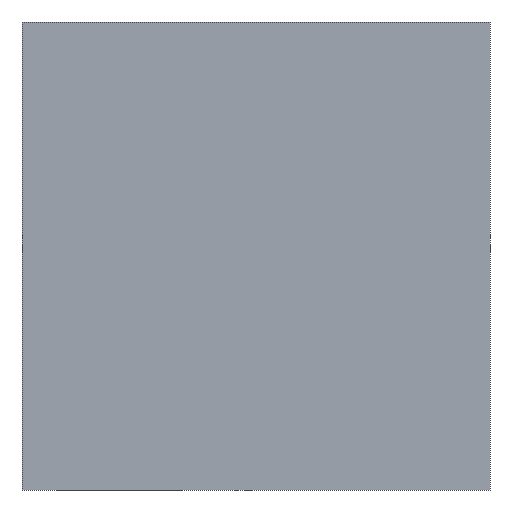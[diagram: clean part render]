
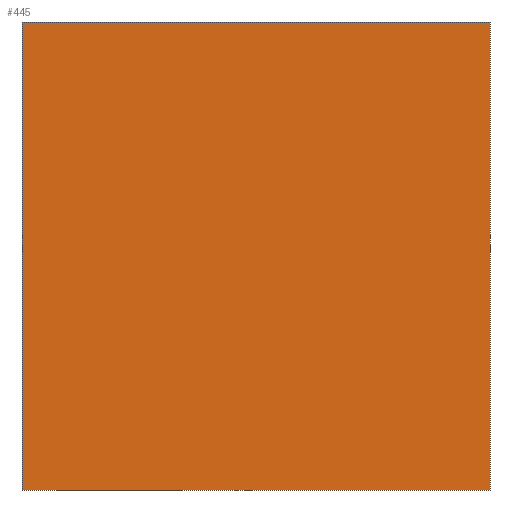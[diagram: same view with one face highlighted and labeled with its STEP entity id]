
A CAD part, front view. The second image highlights one B-rep face of the part: STEP entity #445.
In plain terms, the highlighted planar face has unit normal (0, -1, 0).
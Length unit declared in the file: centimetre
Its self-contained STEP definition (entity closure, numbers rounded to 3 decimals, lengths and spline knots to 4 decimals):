
#45 = VERTEX_POINT ( 'NONE', #540 ) ;
#80 = AXIS2_PLACEMENT_3D ( 'NONE', #320, #141, #236 ) ;
#86 = EDGE_LOOP ( 'NONE', ( #508, #570, #194, #500 ) ) ;
#99 = VECTOR ( 'NONE', #569, 100. ) ;
#134 = FACE_OUTER_BOUND ( 'NONE', #86, .T. ) ;
#138 = EDGE_CURVE ( 'NONE', #156, #155, #538, .T. ) ;
#141 = DIRECTION ( 'NONE',  ( 0., 1., 0. ) ) ;
#149 = DIRECTION ( 'NONE',  ( 1., 0., 0. ) ) ;
#155 = VERTEX_POINT ( 'NONE', #278 ) ;
#156 = VERTEX_POINT ( 'NONE', #268 ) ;
#164 = CARTESIAN_POINT ( 'NONE',  ( 1000., 0., 1000. ) ) ;
#194 = ORIENTED_EDGE ( 'NONE', *, *, #369, .F. ) ;
#195 = LINE ( 'NONE', #457, #537 ) ;
#236 = DIRECTION ( 'NONE',  ( 0., 0., 1. ) ) ;
#250 = VECTOR ( 'NONE', #357, 100. ) ;
#268 = CARTESIAN_POINT ( 'NONE',  ( 0., 0., 1000. ) ) ;
#272 = PLANE ( 'NONE',  #80 ) ;
#278 = CARTESIAN_POINT ( 'NONE',  ( 0., 0., 0. ) ) ;
#320 = CARTESIAN_POINT ( 'NONE',  ( 0., 0., 1000. ) ) ;
#349 = VECTOR ( 'NONE', #401, 100. ) ;
#352 = LINE ( 'NONE', #436, #99 ) ;
#357 = DIRECTION ( 'NONE',  ( 0., 0., -1. ) ) ;
#368 = VERTEX_POINT ( 'NONE', #387 ) ;
#369 = EDGE_CURVE ( 'NONE', #156, #368, #352, .T. ) ;
#387 = CARTESIAN_POINT ( 'NONE',  ( 1000., 0., 1000. ) ) ;
#401 = DIRECTION ( 'NONE',  ( 0., 0., -1. ) ) ;
#436 = CARTESIAN_POINT ( 'NONE',  ( 0., 0., 1000. ) ) ;
#445 = ADVANCED_FACE ( 'NONE', ( #134 ), #272, .F. ) ;
#457 = CARTESIAN_POINT ( 'NONE',  ( 0., 0., 0. ) ) ;
#495 = CARTESIAN_POINT ( 'NONE',  ( 0., 0., 1000. ) ) ;
#500 = ORIENTED_EDGE ( 'NONE', *, *, #138, .T. ) ;
#508 = ORIENTED_EDGE ( 'NONE', *, *, #550, .T. ) ;
#537 = VECTOR ( 'NONE', #149, 100. ) ;
#538 = LINE ( 'NONE', #495, #349 ) ;
#540 = CARTESIAN_POINT ( 'NONE',  ( 1000., 0., 0. ) ) ;
#550 = EDGE_CURVE ( 'NONE', #155, #45, #195, .T. ) ;
#562 = LINE ( 'NONE', #164, #250 ) ;
#564 = EDGE_CURVE ( 'NONE', #368, #45, #562, .T. ) ;
#569 = DIRECTION ( 'NONE',  ( 1., 0., 0. ) ) ;
#570 = ORIENTED_EDGE ( 'NONE', *, *, #564, .F. ) ;
